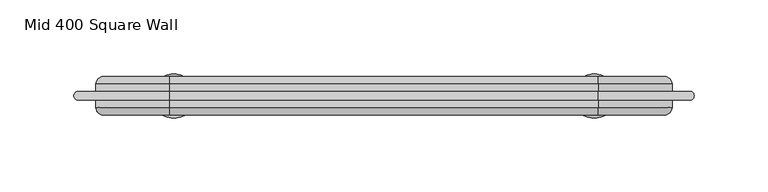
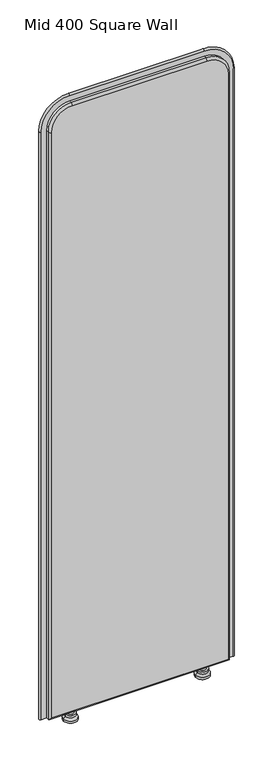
"""IFC4 building model written with IfcOpenShell, lengths in millimetres: furniture geometry, DBLTD_Sixteen3_PrivacyScreens_Artus_Square : Mid 400 Square Wall."""

from ifc_helpers import new_model, si_unit, point, frame, origin, place, context, project, spatial, polyline, circle_curve, ellipse_curve, trimmed, source, transform, mapped, element, save
from ifc_brep_helpers import plane_surface, cylinder_surface, revolved_surface, advanced_brep


def mid_400_square_wall_69be5a48(model_context):
    return source(origin(), model_context, "Body", "AdvancedBrep", [
        advanced_brep(
        [(142.2938623, 820.0, 22.0), (149.2938623, 820.0, 22.0), (135.2938623, 820.0, 22.0), (149.2938623, 820.0, 15.0), (135.2938623, 820.0, 15.0), (153.744562, 820.0, 15.0), (130.8431626, 820.0, 15.0), (153.744562, 820.0, 10.0), (130.8431626, 820.0, 10.0), (157.2938623, 820.0, 5.0), (127.2938623, 820.0, 5.0), (157.2938623, 820.0, 0.0), (127.2938623, 820.0, 0.0), (142.2938623, 820.0, 0.0)],
        [
            (0, 1),
            (1, 2, circle_curve(frame((142.2938623, 820.0, 22.0), z_axis=(0.0, 0.0, 1.0), x_axis=(1.0, 0.0, 0.0)), 7.0)),
            (2, 0),
            (2, 1, circle_curve(frame((142.2938623, 820.0, 22.0), z_axis=(0.0, 0.0, 1.0), x_axis=(1.0, 0.0, 0.0)), 7.0)),
            (1, 3),
            (3, 4, circle_curve(frame((142.2938623, 820.0, 15.0), z_axis=(0.0, 0.0, 1.0), x_axis=(1.0, 0.0, 0.0)), 7.0)),
            (4, 2),
            (4, 3, circle_curve(frame((142.2938623, 820.0, 15.0), z_axis=(0.0, 0.0, 1.0), x_axis=(1.0, 0.0, 0.0)), 7.0)),
            (3, 5),
            (5, 6, circle_curve(frame((142.2938623, 820.0, 15.0), z_axis=(0.0, 0.0, 1.0), x_axis=(1.0, 0.0, 0.0)), 11.4506997)),
            (6, 4),
            (6, 5, circle_curve(frame((142.2938623, 820.0, 15.0), z_axis=(0.0, 0.0, 1.0), x_axis=(1.0, 0.0, 0.0)), 11.4506997)),
            (5, 7),
            (7, 8, circle_curve(frame((142.2938623, 820.0, 10.0), z_axis=(0.0, 0.0, 1.0), x_axis=(1.0, 0.0, 0.0)), 11.4506997)),
            (8, 6),
            (8, 7, circle_curve(frame((142.2938623, 820.0, 10.0), z_axis=(0.0, 0.0, 1.0), x_axis=(1.0, 0.0, 0.0)), 11.4506997)),
            (7, 9),
            (9, 10, circle_curve(frame((142.2938623, 820.0, 5.0), z_axis=(0.0, 0.0, 1.0), x_axis=(1.0, 0.0, 0.0)), 15.0)),
            (10, 8),
            (10, 9, circle_curve(frame((142.2938623, 820.0, 5.0), z_axis=(0.0, 0.0, 1.0), x_axis=(1.0, 0.0, 0.0)), 15.0)),
            (9, 11),
            (11, 12, circle_curve(frame((142.2938623, 820.0, 0.0), z_axis=(0.0, 0.0, 1.0), x_axis=(1.0, 0.0, 0.0)), 15.0)),
            (12, 10),
            (12, 11, circle_curve(frame((142.2938623, 820.0, 0.0), z_axis=(0.0, 0.0, 1.0), x_axis=(1.0, 0.0, 0.0)), 15.0)),
            (11, 13),
            (13, 12),
        ],
        [
            plane_surface(frame((142.2938623, 820.0, 22.0), z_axis=(0.0, 0.0, 1.0), x_axis=(1.0, 0.0, 0.0))),
            cylinder_surface(frame((142.2938623, 820.0, 5.0), z_axis=(0.0, 0.0, 1.0), x_axis=(1.0, 0.0, 0.0)), 7.0),
            plane_surface(frame((142.2938623, 820.0, 15.0), z_axis=(0.0, 0.0, 1.0), x_axis=(1.0, 0.0, 0.0))),
            cylinder_surface(frame((142.2938623, 820.0, 5.0), z_axis=(0.0, 0.0, 1.0), x_axis=(1.0, 0.0, 0.0)), 11.4506997),
            revolved_surface(polyline([(157.2938623, 820.0, 5.0), (153.744562, 820.0, 10.0)]), (142.2938623, 820.0, 5.0), (0.0, 0.0, 1.0)),
            cylinder_surface(frame((142.2938623, 820.0, 5.0), z_axis=(0.0, 0.0, 1.0), x_axis=(1.0, 0.0, 0.0)), 15.0),
            plane_surface(frame((142.2938623, 820.0, 0.0), z_axis=(0.0, 0.0, -1.0), x_axis=(1.0, 0.0, 0.0))),
        ],
        [
            (0, [[1, 2, 3]]),
            (0, [[-3, 4, -1]]),
            (1, [[-2, 5, 6, 7]]),
            (1, [[-4, -7, 8, -5]]),
            (2, [[-6, 9, 10, 11]]),
            (2, [[-8, -11, 12, -9]]),
            (3, [[-10, 13, 14, 15]]),
            (3, [[-12, -15, 16, -13]]),
            (4, [[-14, 17, 18, 19]]),
            (4, [[-16, -19, 20, -17]]),
            (5, [[-18, 21, 22, 23]]),
            (5, [[-20, -23, 24, -21]]),
            (6, [[-22, 25, 26]]),
            (6, [[-24, -26, -25]]),
        ],
    ),
        advanced_brep(
        [(-135.2938623, 820.0, 22.0), (-149.2938623, 820.0, 22.0), (-142.2938623, 820.0, 22.0), (-135.2938623, 820.0, 15.0), (-149.2938623, 820.0, 15.0), (-130.8431626, 820.0, 15.0), (-153.744562, 820.0, 15.0), (-130.8431626, 820.0, 10.0), (-153.744562, 820.0, 10.0), (-127.2938623, 820.0, 5.0), (-157.2938623, 820.0, 5.0), (-127.2938623, 820.0, 0.0), (-157.2938623, 820.0, 0.0), (-142.2938623, 820.0, 0.0)],
        [
            (0, 1, circle_curve(frame((-142.2938623, 820.0, 22.0), z_axis=(0.0, 0.0, 1.0), x_axis=(-1.0, 0.0, 0.0)), 7.0)),
            (1, 2),
            (2, 0),
            (1, 0, circle_curve(frame((-142.2938623, 820.0, 22.0), z_axis=(0.0, 0.0, 1.0), x_axis=(-1.0, 0.0, 0.0)), 7.0)),
            (3, 4, circle_curve(frame((-142.2938623, 820.0, 15.0), z_axis=(0.0, 0.0, 1.0), x_axis=(-1.0, 0.0, 0.0)), 7.0)),
            (4, 1),
            (0, 3),
            (4, 3, circle_curve(frame((-142.2938623, 820.0, 15.0), z_axis=(0.0, 0.0, 1.0), x_axis=(-1.0, 0.0, 0.0)), 7.0)),
            (5, 6, circle_curve(frame((-142.2938623, 820.0, 15.0), z_axis=(0.0, 0.0, 1.0), x_axis=(-1.0, 0.0, 0.0)), 11.4506997)),
            (6, 4),
            (3, 5),
            (6, 5, circle_curve(frame((-142.2938623, 820.0, 15.0), z_axis=(0.0, 0.0, 1.0), x_axis=(-1.0, 0.0, 0.0)), 11.4506997)),
            (7, 8, circle_curve(frame((-142.2938623, 820.0, 10.0), z_axis=(0.0, 0.0, 1.0), x_axis=(-1.0, 0.0, 0.0)), 11.4506997)),
            (8, 6),
            (5, 7),
            (8, 7, circle_curve(frame((-142.2938623, 820.0, 10.0), z_axis=(0.0, 0.0, 1.0), x_axis=(-1.0, 0.0, 0.0)), 11.4506997)),
            (9, 10, circle_curve(frame((-142.2938623, 820.0, 5.0), z_axis=(0.0, 0.0, 1.0), x_axis=(-1.0, 0.0, 0.0)), 15.0)),
            (10, 8),
            (7, 9),
            (10, 9, circle_curve(frame((-142.2938623, 820.0, 5.0), z_axis=(0.0, 0.0, 1.0), x_axis=(-1.0, 0.0, 0.0)), 15.0)),
            (11, 12, circle_curve(frame((-142.2938623, 820.0, 0.0), z_axis=(0.0, 0.0, 1.0), x_axis=(-1.0, 0.0, 0.0)), 15.0)),
            (12, 10),
            (9, 11),
            (12, 11, circle_curve(frame((-142.2938623, 820.0, 0.0), z_axis=(0.0, 0.0, 1.0), x_axis=(-1.0, 0.0, 0.0)), 15.0)),
            (13, 12),
            (11, 13),
        ],
        [
            plane_surface(frame((-142.2938623, 820.0, 22.0), z_axis=(0.0, 0.0, 1.0), x_axis=(-1.0, 0.0, 0.0))),
            cylinder_surface(frame((-142.2938623, 820.0, 5.0), z_axis=(0.0, 0.0, -1.0), x_axis=(-1.0, 0.0, 0.0)), 7.0),
            plane_surface(frame((-142.2938623, 820.0, 15.0), z_axis=(0.0, 0.0, 1.0), x_axis=(-1.0, 0.0, 0.0))),
            cylinder_surface(frame((-142.2938623, 820.0, 5.0), z_axis=(0.0, 0.0, -1.0), x_axis=(-1.0, 0.0, 0.0)), 11.4506997),
            revolved_surface(polyline([(-153.744562, 820.0, 10.0), (-157.2938623, 820.0, 5.0)]), (-142.2938623, 820.0, 5.0), (0.0, 0.0, -1.0)),
            cylinder_surface(frame((-142.2938623, 820.0, 5.0), z_axis=(0.0, 0.0, -1.0), x_axis=(-1.0, 0.0, 0.0)), 15.0),
            plane_surface(frame((-142.2938623, 820.0, 0.0), z_axis=(0.0, 0.0, -1.0), x_axis=(-1.0, 0.0, 0.0))),
        ],
        [
            (0, [[1, 2, 3]]),
            (0, [[4, -3, -2]]),
            (1, [[5, 6, -1, 7]]),
            (1, [[8, -7, -4, -6]]),
            (2, [[9, 10, -5, 11]]),
            (2, [[12, -11, -8, -10]]),
            (3, [[13, 14, -9, 15]]),
            (3, [[16, -15, -12, -14]]),
            (4, [[17, 18, -13, 19]]),
            (4, [[20, -19, -16, -18]]),
            (5, [[21, 22, -17, 23]]),
            (5, [[24, -23, -20, -22]]),
            (6, [[25, -21, 26]]),
            (6, [[-26, -24, -25]]),
        ],
    ),
        advanced_brep(
        [(-190.0, 807.0, 27.0), (190.0, 807.0, 27.0), (190.0, 807.0, 1360.0), (145.0, 807.0, 1405.0), (-145.0, 807.0, 1405.0), (-190.0, 807.0, 1360.0), (190.0, 833.0, 27.0), (-190.0, 833.0, 27.0), (-190.0, 833.0, 1360.0), (-145.0, 833.0, 1405.0), (145.0, 833.0, 1405.0), (190.0, 833.0, 1360.0), (145.0, 811.9999947, 1410.0), (145.0, 828.0, 1410.0), (-145.0, 828.0, 1410.0), (-145.0, 812.0, 1410.0), (-195.0, 828.0, 1360.0), (-195.0, 811.9999935, 1360.0), (-195.0, 828.0, 22.0), (-195.0, 812.0, 22.0), (195.0, 828.0, 22.0), (195.0, 812.0, 22.0), (195.0, 828.0, 1360.0), (195.0, 812.0, 1360.0)],
        [
            (0, 1),
            (1, 2),
            (2, 3, circle_curve(frame((145.0, 807.0, 1360.0), z_axis=(0.0, -1.0, 0.0), x_axis=(1.0, 0.0, 0.0)), 45.0)),
            (3, 4),
            (4, 5, circle_curve(frame((-145.0, 807.0, 1360.0), z_axis=(0.0, -1.0, 0.0), x_axis=(0.0, 0.0, 1.0)), 45.0)),
            (5, 0),
            (6, 7),
            (7, 8),
            (8, 9, circle_curve(frame((-145.0, 833.0, 1360.0), z_axis=(0.0, 1.0, 0.0), x_axis=(0.0, 0.0, 1.0)), 45.0)),
            (9, 10),
            (10, 11, circle_curve(frame((145.0, 833.0, 1360.0), z_axis=(0.0, 1.0, 0.0), x_axis=(1.0, 0.0, 0.0)), 45.0)),
            (11, 6),
            (12, 13),
            (13, 14),
            (14, 15),
            (15, 12),
            (14, 16, circle_curve(frame((-145.0, 828.0, 1360.0), z_axis=(0.0, -1.0, 0.0), x_axis=(1.0, 0.0, 0.0)), 50.0)),
            (16, 17),
            (17, 15, circle_curve(frame((-145.0, 812.0, 1360.0), z_axis=(0.0, 1.0, 0.0), x_axis=(1.0, 0.0, 0.0)), 50.0)),
            (16, 18),
            (18, 19),
            (19, 17),
            (18, 20),
            (20, 21),
            (21, 19),
            (20, 22),
            (22, 23),
            (23, 21),
            (12, 23, circle_curve(frame((145.0, 812.0, 1360.0), z_axis=(0.0, 1.0, 0.0), x_axis=(1.0, 0.0, 0.0)), 50.0)),
            (22, 13, circle_curve(frame((145.0, 828.0, 1360.0), z_axis=(0.0, -1.0, 0.0), x_axis=(1.0, 0.0, 0.0)), 50.0)),
            (21, 1, ellipse_curve(frame((190.0, 812.0, 27.0), z_axis=(-0.7071067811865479, 0.0, -0.707106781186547), x_axis=(0.7071067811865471, 0.0, -0.7071067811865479)), 7.0710678, 5.0)),
            (0, 19, ellipse_curve(frame((-190.0, 812.0, 27.0), z_axis=(0.7071067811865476, 0.0, -0.7071067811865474), x_axis=(0.7071067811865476, 0.0, 0.7071067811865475)), 7.0710678, 5.0)),
            (6, 20, ellipse_curve(frame((190.0, 828.0, 27.0), z_axis=(-0.7071067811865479, 0.0, -0.707106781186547), x_axis=(0.7071067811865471, 0.0, -0.7071067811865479)), 7.0710678, 5.0)),
            (18, 7, ellipse_curve(frame((-190.0, 828.0, 27.0), z_axis=(0.7071067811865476, 0.0, -0.7071067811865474), x_axis=(0.7071067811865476, 0.0, 0.7071067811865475)), 7.0710678, 5.0)),
            (23, 2, circle_curve(frame((190.0, 812.0, 1360.0), z_axis=(0.0, 0.0, -1.0), x_axis=(1.0, 0.0, 0.0)), 5.0)),
            (11, 22, circle_curve(frame((190.0, 828.0, 1360.0), z_axis=(0.0, 0.0, -1.0), x_axis=(1.0, 0.0, 0.0)), 5.0)),
            (12, 3, circle_curve(frame((145.0, 812.0, 1405.0), z_axis=(1.0, 0.0, 0.0), x_axis=(0.0, 0.0, 1.0)), 5.0)),
            (10, 13, circle_curve(frame((145.0, 828.0, 1405.0), z_axis=(1.0, 0.0, 0.0), x_axis=(0.0, 0.0, 1.0)), 5.0)),
            (15, 4, circle_curve(frame((-145.0, 812.0, 1405.0), z_axis=(1.0, 0.0, 0.0), x_axis=(0.0, 0.0, 1.0)), 5.0)),
            (9, 14, circle_curve(frame((-145.0, 828.0, 1405.0), z_axis=(1.0, 0.0, 0.0), x_axis=(0.0, 0.0, 1.0)), 5.0)),
            (17, 5, circle_curve(frame((-190.0, 812.0, 1360.0), z_axis=(0.0, 0.0, 1.0), x_axis=(-1.0, 0.0, 0.0)), 5.0)),
            (8, 16, circle_curve(frame((-190.0, 828.0, 1360.0), z_axis=(0.0, 0.0, 1.0), x_axis=(-1.0, 0.0, 0.0)), 5.0)),
        ],
        [
            plane_surface(frame((-145.0, 807.0, 1410.0), z_axis=(0.0, -1.0, 0.0), x_axis=(-1.0, 0.0, 0.0))),
            plane_surface(frame((-145.0, 833.0, 1410.0), z_axis=(0.0, 1.0, 0.0), x_axis=(1.0, 0.0, 0.0))),
            plane_surface(frame((145.0, 807.0, 1410.0), z_axis=(0.0, 0.0, 1.0), x_axis=(0.0, 1.0, 0.0))),
            cylinder_surface(frame((-145.0, 833.0, 1360.0), z_axis=(0.0, -1.0, 0.0), x_axis=(1.0, 0.0, 0.0)), 50.0),
            plane_surface(frame((-195.0, 807.0, 1360.0), z_axis=(-1.0, 0.0, 0.0), x_axis=(0.0, 1.0, 0.0))),
            plane_surface(frame((-195.0, 807.0, 22.0), z_axis=(0.0, 0.0, -1.0), x_axis=(0.0, 1.0, 0.0))),
            plane_surface(frame((195.0, 807.0, 22.0), z_axis=(1.0, 0.0, 0.0), x_axis=(0.0, 1.0, 0.0))),
            cylinder_surface(frame((145.0, 833.0, 1360.0), z_axis=(0.0, -1.0, 0.0), x_axis=(1.0, 0.0, 0.0)), 50.0),
            cylinder_surface(frame((-195.0, 812.0, 27.0), z_axis=(1.0, 0.0, 0.0), x_axis=(0.0, 0.0, -1.0)), 5.0),
            cylinder_surface(frame((-195.0, 828.0, 27.0), z_axis=(1.0, 0.0, 0.0), x_axis=(0.0, 0.0, -1.0)), 5.0),
            cylinder_surface(frame((190.0, 812.0, 22.0), z_axis=(0.0, 0.0, 1.0), x_axis=(1.0, 0.0, 0.0)), 5.0),
            cylinder_surface(frame((190.0, 828.0, 22.0), z_axis=(0.0, 0.0, 1.0), x_axis=(1.0, 0.0, 0.0)), 5.0),
            revolved_surface(trimmed(ellipse_curve(frame((190.0, 812.0, 1360.0), z_axis=(0.0, 0.0, -1.0), x_axis=(1.0, 0.0, 0.0)), 5.0, 5.0), [point((195.0, 812.0, 1360.0))], [point((190.0, 807.0, 1360.0))], True, "CARTESIAN"), (145.0, 807.0, 1360.0), (0.0, -1.0, 0.0)),
            revolved_surface(trimmed(ellipse_curve(frame((190.0, 828.0, 1360.0), z_axis=(0.0, 0.0, -1.0), x_axis=(1.0, 0.0, 0.0)), 5.0, 5.0), [point((190.0, 833.0, 1360.0))], [point((195.0, 828.0, 1360.0))], True, "CARTESIAN"), (145.0, 807.0, 1360.0), (0.0, -1.0, 0.0)),
            cylinder_surface(frame((145.0, 812.0, 1405.0), z_axis=(-1.0, 0.0, 0.0), x_axis=(0.0, 0.0, 1.0)), 5.0),
            cylinder_surface(frame((145.0, 828.0, 1405.0), z_axis=(-1.0, 0.0, 0.0), x_axis=(0.0, 0.0, 1.0)), 5.0),
            revolved_surface(trimmed(ellipse_curve(frame((-145.0, 812.0, 1405.0), z_axis=(1.0, 0.0, 0.0), x_axis=(0.0, 0.0, 1.0)), 5.0, 5.0), [point((-145.0, 812.0, 1410.0))], [point((-145.0, 807.0, 1405.0))], True, "CARTESIAN"), (-145.0, 807.0, 1360.0), (0.0, -1.0, 0.0)),
            revolved_surface(trimmed(ellipse_curve(frame((-145.0, 828.0, 1405.0), z_axis=(1.0, 0.0, 0.0), x_axis=(0.0, 0.0, 1.0)), 5.0, 5.0), [point((-145.0, 833.0, 1405.0))], [point((-145.0, 828.0, 1410.0))], True, "CARTESIAN"), (-145.0, 807.0, 1360.0), (0.0, -1.0, 0.0)),
            cylinder_surface(frame((-190.0, 812.0, 1360.0), z_axis=(0.0, 0.0, -1.0), x_axis=(-1.0, 0.0, 0.0)), 5.0),
            cylinder_surface(frame((-190.0, 828.0, 1360.0), z_axis=(0.0, 0.0, -1.0), x_axis=(-1.0, 0.0, 0.0)), 5.0),
        ],
        [
            (0, [[1, 2, 3, 4, 5, 6]]),
            (1, [[7, 8, 9, 10, 11, 12]]),
            (2, [[13, 14, 15, 16]]),
            (3, [[-15, 17, 18, 19]]),
            (4, [[-18, 20, 21, 22]]),
            (5, [[-21, 23, 24, 25]]),
            (6, [[-24, 26, 27, 28]]),
            (7, [[-13, 29, -27, 30]]),
            (8, [[31, -1, 32, -25]]),
            (9, [[33, -23, 34, -7]]),
            (10, [[-31, -28, 35, -2]]),
            (11, [[-33, -12, 36, -26]]),
            (12, [[-35, -29, 37, -3]]),
            (13, [[-36, -11, 38, -30]]),
            (14, [[-37, -16, 39, -4]]),
            (15, [[-38, -10, 40, -14]]),
            (16, [[-39, -19, 41, -5]]),
            (17, [[-40, -9, 42, -17]]),
            (18, [[-32, -6, -41, -22]]),
            (19, [[-34, -20, -42, -8]]),
        ],
    ),
        advanced_brep(
        [(206.9577057, 823.0, 22.0), (206.9577057, 817.0, 22.0), (195.0, 817.0, 22.0), (195.0, 823.0, 22.0), (206.9577057, 823.0, 1360.0), (206.9577057, 817.0, 1360.0), (145.0, 817.0, 1421.9577057), (-145.0, 817.0, 1421.9577057), (-206.9577057, 817.0, 1360.0), (-206.9577057, 817.0, 22.0), (-195.0, 817.0, 22.0), (-195.0, 817.0, 1360.0), (-145.0, 817.0, 1410.0), (145.0, 817.0, 1410.0), (195.0, 817.0, 1360.0), (195.0, 823.0, 1360.0), (145.0, 823.0, 1410.0), (-145.0, 823.0, 1410.0), (-195.0, 823.0, 1360.0), (-195.0, 823.0, 22.0), (-206.9577057, 823.0, 22.0), (-206.9577057, 823.0, 1360.0), (-145.0, 823.0, 1421.9577057), (145.0, 823.0, 1421.9577057)],
        [
            (0, 1, circle_curve(frame((206.9577057, 820.0, 22.0), z_axis=(0.0, 0.0, -1.0), x_axis=(1.0, 0.0, 0.0)), 3.0)),
            (1, 2),
            (2, 3),
            (3, 0),
            (0, 4),
            (4, 5, circle_curve(frame((206.9577057, 820.0, 1360.0), z_axis=(0.0, 0.0, -1.0), x_axis=(1.0, 0.0, 0.0)), 3.0)),
            (5, 1),
            (5, 6, circle_curve(frame((145.0, 817.0, 1360.0), z_axis=(0.0, -1.0, 0.0), x_axis=(1.0, 0.0, 0.0)), 61.9577057)),
            (6, 7),
            (7, 8, circle_curve(frame((-145.0, 817.0, 1360.0), z_axis=(0.0, -1.0, 0.0), x_axis=(0.0, 0.0, 1.0)), 61.9577057)),
            (8, 9),
            (9, 10),
            (10, 11),
            (11, 12, circle_curve(frame((-145.0, 817.0, 1360.0), z_axis=(0.0, 1.0, 0.0), x_axis=(0.0, 0.0, 1.0)), 50.0)),
            (12, 13),
            (13, 14, circle_curve(frame((145.0, 817.0, 1360.0), z_axis=(0.0, 1.0, 0.0), x_axis=(1.0, 0.0, 0.0)), 50.0)),
            (14, 2),
            (14, 15),
            (15, 3),
            (15, 16, circle_curve(frame((145.0, 823.0, 1360.0), z_axis=(0.0, -1.0, 0.0), x_axis=(1.0, 0.0, 0.0)), 50.0)),
            (16, 17),
            (17, 18, circle_curve(frame((-145.0, 823.0, 1360.0), z_axis=(0.0, -1.0, 0.0), x_axis=(0.0, 0.0, 1.0)), 50.0)),
            (18, 19),
            (19, 20),
            (20, 21),
            (21, 22, circle_curve(frame((-145.0, 823.0, 1360.0), z_axis=(0.0, 1.0, 0.0), x_axis=(0.0, 0.0, 1.0)), 61.9577057)),
            (22, 23),
            (23, 4, circle_curve(frame((145.0, 823.0, 1360.0), z_axis=(0.0, 1.0, 0.0), x_axis=(1.0, 0.0, 0.0)), 61.9577057)),
            (23, 6, circle_curve(frame((145.0, 820.0, 1421.9577057), z_axis=(1.0, 0.0, 0.0), x_axis=(0.0, 0.0, 1.0)), 3.0)),
            (13, 16),
            (22, 7, circle_curve(frame((-145.0, 820.0, 1421.9577057), z_axis=(1.0, 0.0, 0.0), x_axis=(0.0, 0.0, 1.0)), 3.0)),
            (12, 17),
            (21, 8, circle_curve(frame((-206.9577057, 820.0, 1360.0), z_axis=(0.0, 0.0, 1.0), x_axis=(-1.0, 0.0, 0.0)), 3.0)),
            (11, 18),
            (19, 10),
            (9, 20, circle_curve(frame((-206.9577057, 820.0, 22.0), z_axis=(0.0, 0.0, -1.0), x_axis=(-1.0, 0.0, 0.0)), 3.0)),
        ],
        [
            plane_surface(frame((195.0, 807.0, 22.0), z_axis=(0.0, 0.0, -1.0), x_axis=(1.0, 0.0, 0.0))),
            cylinder_surface(frame((206.9577057, 820.0, 22.0), z_axis=(0.0, 0.0, -1.0), x_axis=(1.0, 0.0, 0.0)), 3.0),
            plane_surface(frame((206.9577057, 817.0, 22.0), z_axis=(0.0, -1.0, 0.0), x_axis=(0.0, 0.0, 1.0))),
            plane_surface(frame((195.0, 817.0, 22.0), z_axis=(-1.0, 0.0, 0.0), x_axis=(0.0, 0.0, 1.0))),
            plane_surface(frame((195.0, 823.0, 22.0), z_axis=(0.0, 1.0, 0.0), x_axis=(0.0, 0.0, 1.0))),
            revolved_surface(trimmed(ellipse_curve(frame((206.9577057, 820.0, 1360.0), z_axis=(0.0, 0.0, -1.0), x_axis=(1.0, 0.0, 0.0)), 3.0, 3.0), [point((206.9577057, 823.0, 1360.0))], [point((206.9577057, 817.0, 1360.0))], True, "CARTESIAN"), (145.0, 807.0, 1360.0), (0.0, -1.0, 0.0)),
            revolved_surface(polyline([(195.0, 817.0, 1360.0), (195.0, 823.0, 1360.0)]), (145.0, 807.0, 1360.0), (0.0, -1.0, 0.0)),
            cylinder_surface(frame((145.0, 820.0, 1421.9577057), z_axis=(1.0, 0.0, 0.0), x_axis=(0.0, 0.0, 1.0)), 3.0),
            plane_surface(frame((145.0, 817.0, 1410.0), z_axis=(0.0, 0.0, -1.0), x_axis=(-1.0, 0.0, 0.0))),
            revolved_surface(trimmed(ellipse_curve(frame((-145.0, 820.0, 1421.9577057), z_axis=(1.0, 0.0, 0.0), x_axis=(0.0, 0.0, 1.0)), 3.0, 3.0), [point((-145.0, 823.0, 1421.9577057))], [point((-145.0, 817.0, 1421.9577057))], True, "CARTESIAN"), (-145.0, 807.0, 1360.0), (0.0, -1.0, 0.0)),
            revolved_surface(polyline([(-145.0, 817.0, 1410.0), (-145.0, 823.0, 1410.0)]), (-145.0, 807.0, 1360.0), (0.0, -1.0, 0.0)),
            plane_surface(frame((-195.0, 807.0, 22.0), z_axis=(0.0, 0.0, -1.0), x_axis=(-1.0, 0.0, 0.0))),
            cylinder_surface(frame((-206.9577057, 820.0, 1360.0), z_axis=(0.0, 0.0, 1.0), x_axis=(-1.0, 0.0, 0.0)), 3.0),
            plane_surface(frame((-195.0, 817.0, 1360.0), z_axis=(1.0, 0.0, 0.0), x_axis=(0.0, 0.0, -1.0))),
        ],
        [
            (0, [[1, 2, 3, 4]]),
            (1, [[-1, 5, 6, 7]]),
            (2, [[-2, -7, 8, 9, 10, 11, 12, 13, 14, 15, 16, 17]]),
            (3, [[-3, -17, 18, 19]]),
            (4, [[-4, -19, 20, 21, 22, 23, 24, 25, 26, 27, 28, -5]]),
            (5, [[-8, -6, -28, 29]]),
            (6, [[-20, -18, -16, 30]]),
            (7, [[-29, -27, 31, -9]]),
            (8, [[-30, -15, 32, -21]]),
            (9, [[-10, -31, -26, 33]]),
            (10, [[-22, -32, -14, 34]]),
            (11, [[-24, 35, -12, 36]]),
            (12, [[-33, -25, -36, -11]]),
            (13, [[-34, -13, -35, -23]]),
        ],
    ),
    ])


if __name__ == "__main__":
    model = new_model("IFC4")
    model_context = context("Model", 3, world=origin())
    ifc_project = project(units=[si_unit("LENGTHUNIT", "METRE", prefix="MILLI")], contexts=[model_context])
    site = spatial("IfcSite", under=ifc_project)
    building = spatial("IfcBuilding", under=site)
    placement = place(None, origin())
    mid_400_square_wall_shape = mid_400_square_wall_69be5a48(model_context)
    element("IfcFurniture", 1, ObjectType="DBLTD_Sixteen3_PrivacyScreens_Artus_Square : Mid 400 Square Wall", at=placement, inside=building, context=model_context, shape_type="MappedRepresentation", body=[
        mapped(mid_400_square_wall_shape, transform((0.0, 0.0, 0.0), x_axis=(1.0, 0.0, 0.0), y_axis=(0.0, 1.0, 0.0), z_axis=(0.0, 0.0, 1.0))),
    ])
    save(model, "model.ifc")
